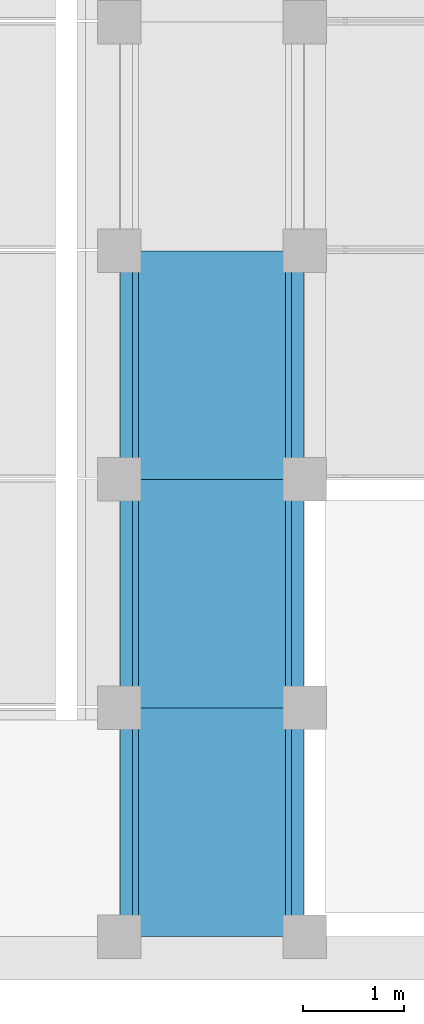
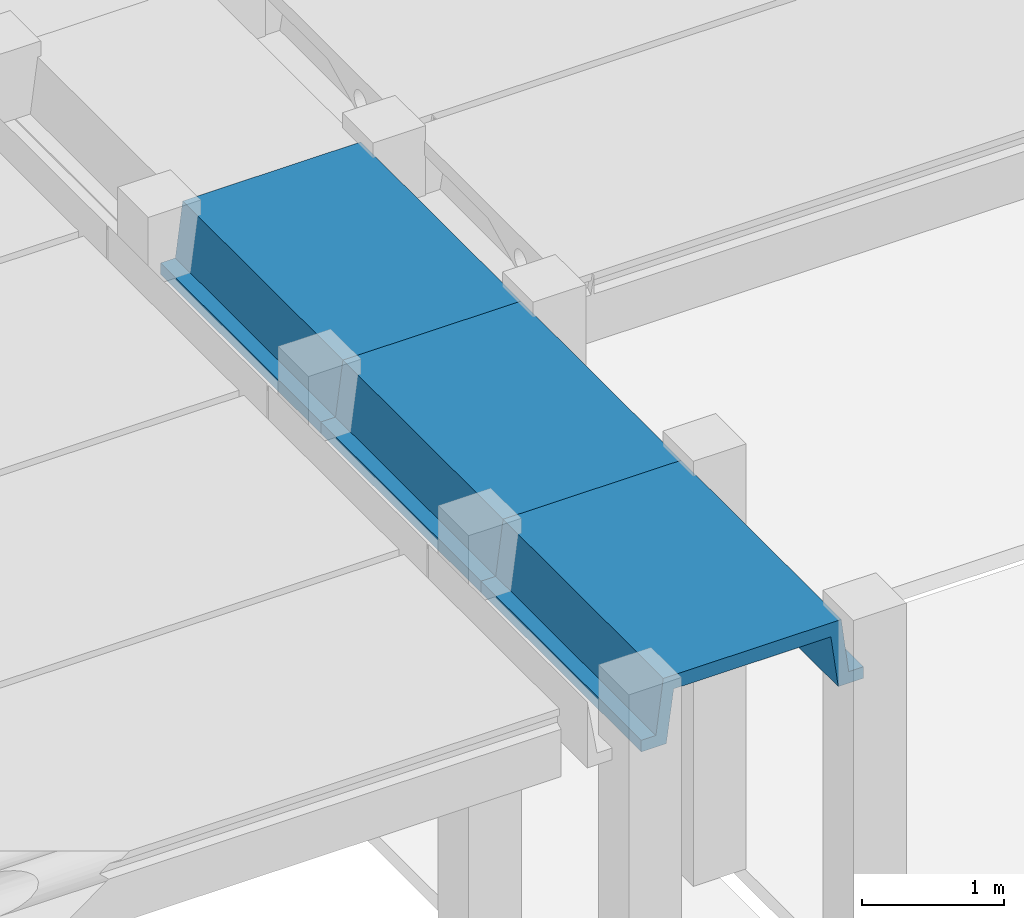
# One storey, part 3 of 25: 3 beams.
"""IFC2X3 building model written with IfcOpenShell, lengths in millimetres."""

from ifc_helpers import new_model, entity, si_unit, converted_unit, derived_unit, direction, frame, origin, place, context, subcontext, project, spatial, polyline, outline, extrude, material, type_object, element, save


model = new_model("IFC2X3")

# Units and contexts
model_context = context("Model", 3, precision=0.01, world=origin(), true_north=direction((6.12303176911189e-17, 1.0)))
body_context = subcontext(model_context, "Body", "Model", "MODEL_VIEW")
ifc_project = project(units=[si_unit("LENGTHUNIT", "METRE", prefix="MILLI"), si_unit("AREAUNIT", "SQUARE_METRE"), si_unit("VOLUMEUNIT", "CUBIC_METRE"), converted_unit("PLANEANGLEUNIT", "DEGREE", entity("IfcRatioMeasure", 0.0174532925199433), si_unit("PLANEANGLEUNIT", "RADIAN"), dimensions=[0, 0, 0, 0, 0, 0, 0]), si_unit("MASSUNIT", "GRAM", prefix="KILO"), derived_unit("MASSDENSITYUNIT", [(si_unit("MASSUNIT", "GRAM", prefix="KILO"), 1), (si_unit("LENGTHUNIT", "METRE"), -3)]), derived_unit("MOMENTOFINERTIAUNIT", [(si_unit("LENGTHUNIT", "METRE"), 4)]), si_unit("TIMEUNIT", "SECOND"), si_unit("FREQUENCYUNIT", "HERTZ"), si_unit("THERMODYNAMICTEMPERATUREUNIT", "DEGREE_CELSIUS"), derived_unit("THERMALTRANSMITTANCEUNIT", [(si_unit("MASSUNIT", "GRAM", prefix="KILO"), 1), (si_unit("THERMODYNAMICTEMPERATUREUNIT", "KELVIN"), -1), (si_unit("TIMEUNIT", "SECOND"), -3)]), derived_unit("VOLUMETRICFLOWRATEUNIT", [(si_unit("LENGTHUNIT", "METRE"), 3), (si_unit("TIMEUNIT", "SECOND"), -1)]), si_unit("ELECTRICCURRENTUNIT", "AMPERE"), si_unit("ELECTRICVOLTAGEUNIT", "VOLT"), si_unit("POWERUNIT", "WATT"), si_unit("FORCEUNIT", "NEWTON", prefix="KILO"), si_unit("ILLUMINANCEUNIT", "LUX"), si_unit("LUMINOUSFLUXUNIT", "LUMEN"), si_unit("LUMINOUSINTENSITYUNIT", "CANDELA"), derived_unit("USERDEFINED", [(si_unit("MASSUNIT", "GRAM", prefix="KILO"), -1), (si_unit("LENGTHUNIT", "METRE"), -2), (si_unit("TIMEUNIT", "SECOND"), 3), (si_unit("LUMINOUSFLUXUNIT", "LUMEN"), 1)]), derived_unit("LINEARVELOCITYUNIT", [(si_unit("LENGTHUNIT", "METRE"), 1), (si_unit("TIMEUNIT", "SECOND"), -1)]), si_unit("PRESSUREUNIT", "PASCAL"), derived_unit("USERDEFINED", [(si_unit("LENGTHUNIT", "METRE"), -2), (si_unit("MASSUNIT", "GRAM", prefix="KILO"), 1), (si_unit("TIMEUNIT", "SECOND"), -2)]), derived_unit("LINEARFORCEUNIT", [(si_unit("MASSUNIT", "GRAM", prefix="KILO"), 1), (si_unit("LENGTHUNIT", "METRE"), 1), (si_unit("TIMEUNIT", "SECOND"), -2), (si_unit("LENGTHUNIT", "METRE"), -1)]), derived_unit("PLANARFORCEUNIT", [(si_unit("MASSUNIT", "GRAM", prefix="KILO"), 1), (si_unit("LENGTHUNIT", "METRE"), 1), (si_unit("TIMEUNIT", "SECOND"), -2), (si_unit("LENGTHUNIT", "METRE"), -2)])], contexts=[model_context])

# Site, building, storey
site_placement = place(None, frame((10627.5135316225, 21939.0796949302, 0.0)))
site = spatial("IfcSite", under=ifc_project, at=site_placement, Name="Default", CompositionType="ELEMENT")
building_placement = place(site_placement, origin())
building = spatial("IfcBuilding", under=site, at=building_placement, CompositionType="ELEMENT")
storey_placement = place(building_placement, origin())
storey = spatial("IfcBuildingStorey", under=building, at=storey_placement, Name="RDC", CompositionType="ELEMENT", Elevation=0.0)

# Beams
ifc_material = material(Name="Concrete, Precast Smooth, Light Grey")
beam_type = type_object("IfcBeamType", Name="Poutre petite:Poutre petite", PredefinedType="NOTDEFINED")
beam_1_placement = place(storey_placement, frame((667.48646837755, -17419.0796949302, 3530.0), z_axis=(0.0, 0.0, 1.0), x_axis=(0.0, 1.0, 0.0)))
element("IfcBeam", 1, at=beam_1_placement, inside=storey, type_object=beam_type, material=ifc_material, Name="Poutre petite:Poutre petite", ObjectType="Poutre petite:Poutre petite", context=body_context, shape_type="SweptSolid", body=[
    extrude(outline(polyline([(103.333217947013, -905.013684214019), (203.333564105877, -905.013684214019), (203.333564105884, -700.013730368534), (-246.666782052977, -640.013684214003), (-246.666782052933, 640.013497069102), (203.333564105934, 700.013543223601), (203.333564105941, 905.014058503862), (103.333217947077, 905.014058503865), (103.333217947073, 785.01349706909), (-366.666782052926, 725.013497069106), (-366.666782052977, -725.013684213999), (103.333217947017, -785.013684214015), (103.333217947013, -905.013684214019)])), frame((0.0, -0.000187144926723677, -366.666782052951), z_axis=(1.0, 0.0, 0.0), x_axis=(0.0, 0.0, -1.0)), (0.0, 0.0, 1.0), 2260.0),
])
beam_2_placement = place(storey_placement, frame((667.48646837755, -19679.0796949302, 3530.0), z_axis=(0.0, 0.0, 1.0), x_axis=(0.0, 1.0, 0.0)))
element("IfcBeam", 2, at=beam_2_placement, inside=storey, type_object=beam_type, material=ifc_material, Name="Poutre petite:Poutre petite", ObjectType="Poutre petite:Poutre petite", context=body_context, shape_type="SweptSolid", body=[
    extrude(outline(polyline([(103.333217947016, -905.013684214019), (203.33356410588, -905.013684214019), (203.333564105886, -700.013730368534), (-246.666782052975, -640.013684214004), (-246.666782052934, 640.013497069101), (203.333564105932, 700.013543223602), (203.333564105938, 905.014058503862), (103.333217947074, 905.014058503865), (103.33321794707, 785.01349706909), (-366.666782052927, 725.013497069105), (-366.666782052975, -725.013684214), (103.333217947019, -785.013684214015), (103.333217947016, -905.013684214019)])), frame((0.0, -0.000187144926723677, -366.666782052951), z_axis=(1.0, 0.0, 0.0), x_axis=(0.0, 0.0, -1.0)), (0.0, 0.0, 1.0), 2260.0),
])
beam_3_placement = place(storey_placement, frame((667.48646837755, -21939.0796949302, 3530.0), z_axis=(0.0, 0.0, 1.0), x_axis=(0.0, 1.0, 0.0)))
element("IfcBeam", 3, at=beam_3_placement, inside=storey, type_object=beam_type, material=ifc_material, Name="Poutre petite:Poutre petite", ObjectType="Poutre petite:Poutre petite", context=body_context, shape_type="SweptSolid", body=[
    extrude(outline(polyline([(103.333217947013, -905.013684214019), (203.333564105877, -905.013684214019), (203.333564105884, -700.013730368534), (-246.666782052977, -640.013684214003), (-246.666782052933, 640.013497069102), (203.333564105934, 700.013543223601), (203.333564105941, 905.014058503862), (103.333217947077, 905.014058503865), (103.333217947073, 785.01349706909), (-366.666782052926, 725.013497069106), (-366.666782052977, -725.013684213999), (103.333217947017, -785.013684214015), (103.333217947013, -905.013684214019)])), frame((0.0, -0.000187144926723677, -366.666782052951), z_axis=(1.0, 0.0, 0.0), x_axis=(0.0, 0.0, -1.0)), (0.0, 0.0, 1.0), 2260.0),
])

save(model, "model.ifc")
